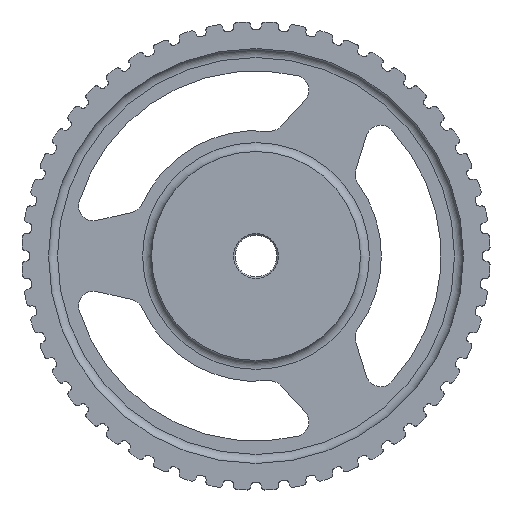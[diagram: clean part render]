
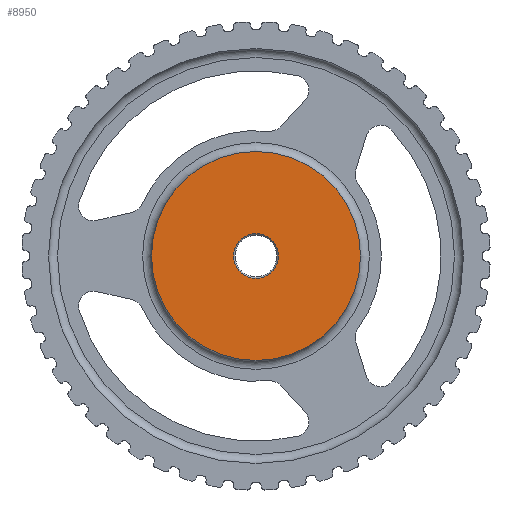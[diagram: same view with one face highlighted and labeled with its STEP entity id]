
A CAD part, left-side view. The second image highlights one B-rep face of the part: STEP entity #8950.
In plain terms, the highlighted planar face has unit normal (-1, 0, 0).
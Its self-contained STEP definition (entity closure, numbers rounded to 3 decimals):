
#29=FACE_BOUND('',#1120,.T.);
#200=PLANE('',#10003);
#654=FACE_OUTER_BOUND('',#1119,.T.);
#1119=EDGE_LOOP('',(#8167));
#1120=EDGE_LOOP('',(#8168));
#3245=CIRCLE('',#10002,7.5);
#3246=CIRCLE('',#10004,35.);
#4148=VERTEX_POINT('',#15556);
#4149=VERTEX_POINT('',#15560);
#5497=EDGE_CURVE('',#4148,#4148,#3245,.T.);
#5498=EDGE_CURVE('',#4149,#4149,#3246,.T.);
#8167=ORIENTED_EDGE('',*,*,#5498,.F.);
#8168=ORIENTED_EDGE('',*,*,#5497,.T.);
#8950=ADVANCED_FACE('',(#654,#29),#200,.T.);
#10002=AXIS2_PLACEMENT_3D('',#15558,#12836,#12837);
#10003=AXIS2_PLACEMENT_3D('',#15559,#12838,#12839);
#10004=AXIS2_PLACEMENT_3D('',#15561,#12840,#12841);
#12836=DIRECTION('center_axis',(1.,0.,0.));
#12837=DIRECTION('ref_axis',(0.,0.,-1.));
#12838=DIRECTION('center_axis',(-1.,0.,0.));
#12839=DIRECTION('ref_axis',(0.,0.,1.));
#12840=DIRECTION('center_axis',(1.,0.,0.));
#12841=DIRECTION('ref_axis',(0.,0.,-1.));
#15556=CARTESIAN_POINT('',(0.,-7.5,0.));
#15558=CARTESIAN_POINT('Origin',(0.,0.,0.));
#15559=CARTESIAN_POINT('Origin',(0.,35.,0.));
#15560=CARTESIAN_POINT('',(0.,-35.,0.));
#15561=CARTESIAN_POINT('Origin',(0.,0.,0.));
